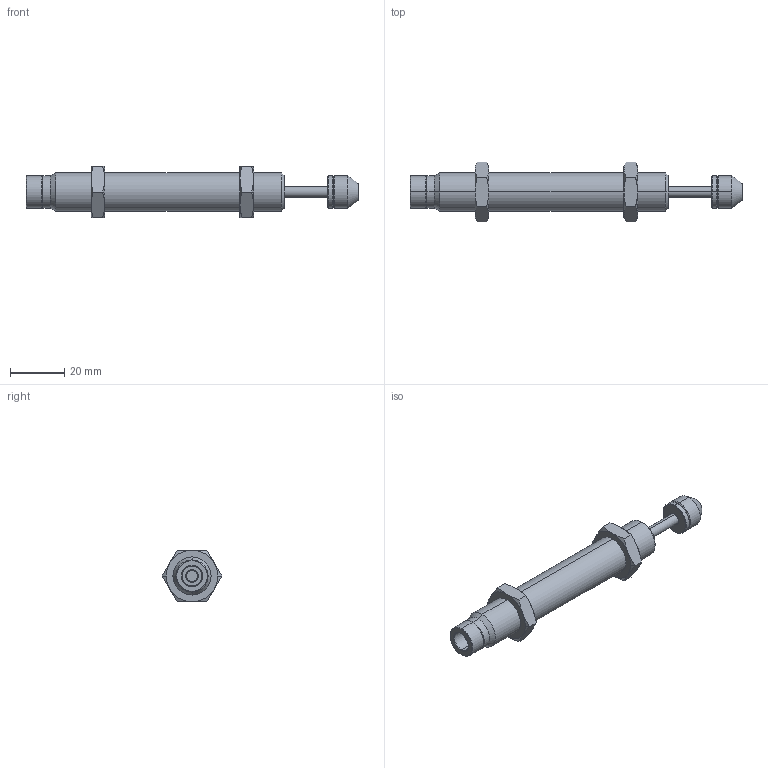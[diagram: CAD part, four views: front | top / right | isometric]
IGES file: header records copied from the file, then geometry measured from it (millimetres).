
Start section: SolidWorks IGES file using analytic representation for surfaces
Global section: file name: D:\IGS跡宒\AC1416(P1.0).IGS,1; native system: 5HSolidWorks 2013; preprocessor: SolidWorks 2013; author: Administrator; date: 160412.105715; units: inch
Bounding box: 122.2 x 21.94 x 19 mm (x, y, z)
Surface area: 7373 mm2 (no closed solid volume)
Topology: 0 solids, 0 shells, 87 faces, 1416 edges, 1416 vertices
Faces by surface type: revolution 62, bspline 25
